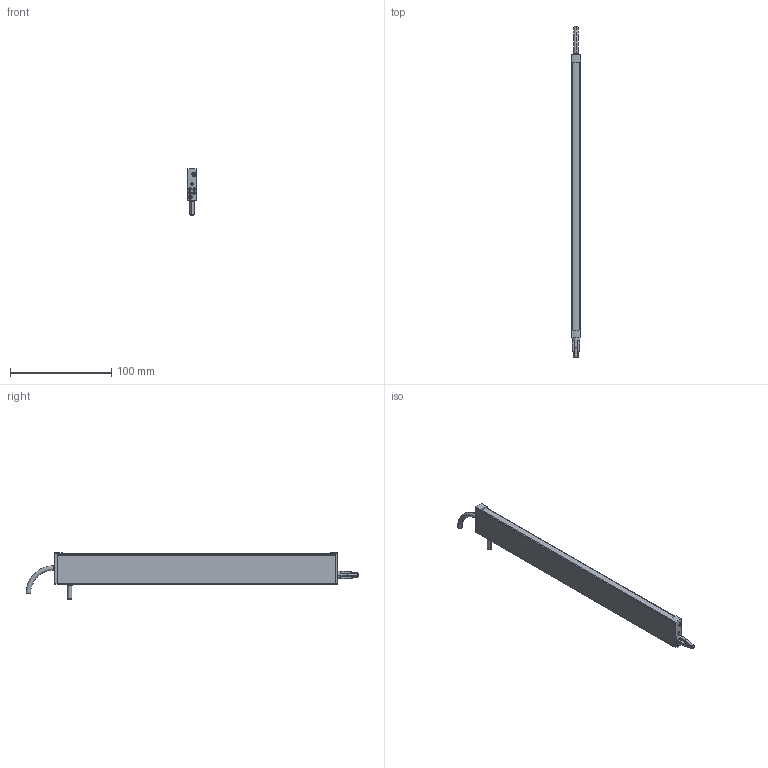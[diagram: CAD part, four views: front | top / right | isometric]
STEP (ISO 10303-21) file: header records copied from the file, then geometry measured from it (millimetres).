
FILE_DESCRIPTION (( 'STEP AP214' ), '1' );
FILE_NAME ('ILG-B-K1-0280mm.STEP', '2017-07-10T11:55:18', ( '' ), ( '' ), 'SwSTEP 2.0', 'SolidWorks 2016', '' );
FILE_SCHEMA (( 'AUTOMOTIVE_DESIGN' ));
Length unit declared in the file: millimetre
Products named in the file (1): ILG-B-K1-0280mm
Bounding box: 9 x 328.25 x 46.21 mm (x, y, z)
Volume: 34771 mm3; surface area: 49611.2 mm2
Topology: 10 solids, 10 shells, 444 faces, 1134 edges, 714 vertices
Faces by surface type: plane 213, cylinder 148, cone 71, torus 12
Entity records: 18441 total; most frequent: CARTESIAN_POINT 2505, DIRECTION 2380, ORIENTED_EDGE 2252, EDGE_CURVE 1126, AXIS2_PLACEMENT_3D 877, VERTEX_POINT 714, LINE 626, VECTOR 626
